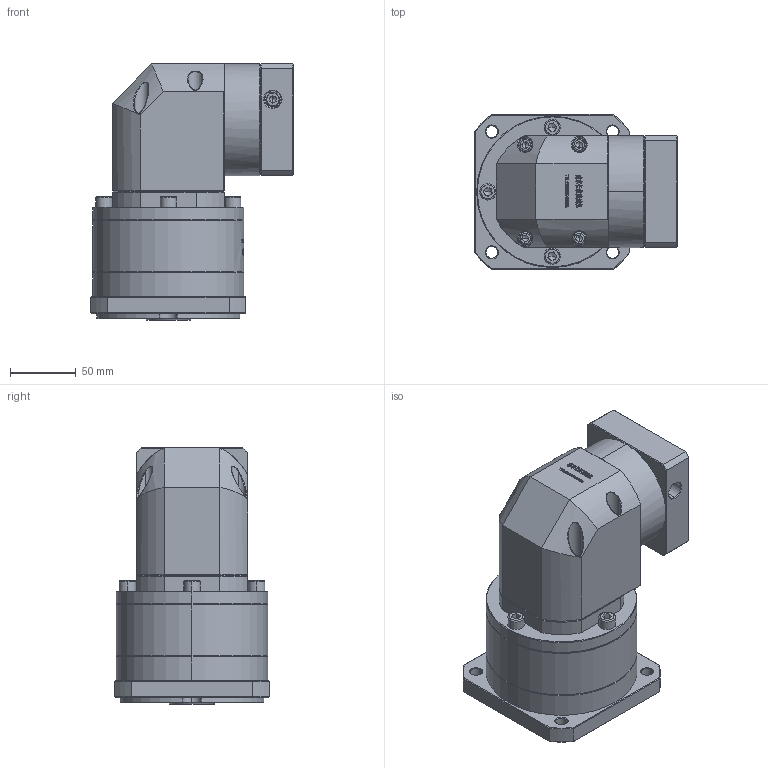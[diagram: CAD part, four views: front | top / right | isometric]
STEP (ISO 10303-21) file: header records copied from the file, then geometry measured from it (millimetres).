
FILE_DESCRIPTION (( 'STEP AP214' ), '1' );
FILE_NAME ('ZFR120A-K25-L2-16-80-100-M6.step', '2023-03-08T05:50:59', ( '' ), ( '' ), 'SwSTEP 2.0', 'SolidWorks 2016', '' );
FILE_SCHEMA (( 'AUTOMOTIVE_DESIGN' ));
Length unit declared in the file: millimetre
Products named in the file (1): ZFR120A-K25-L2-16-80-100-M6
Bounding box: 154.1 x 118 x 195 mm (x, y, z)
Volume: 1809421.3 mm3; surface area: 168657.9 mm2
Topology: 6 solids, 6 shells, 2947 faces, 7815 edges, 5016 vertices
Faces by surface type: plane 1569, bspline 616, cylinder 422, cone 326, torus 14
Entity records: 158163 total; most frequent: CARTESIAN_POINT 58387, ORIENTED_EDGE 15542, DIRECTION 11482, EDGE_CURVE 7771, VERTEX_POINT 5016, VECTOR 4870, LINE 4870, AXIS2_PLACEMENT_3D 3306
